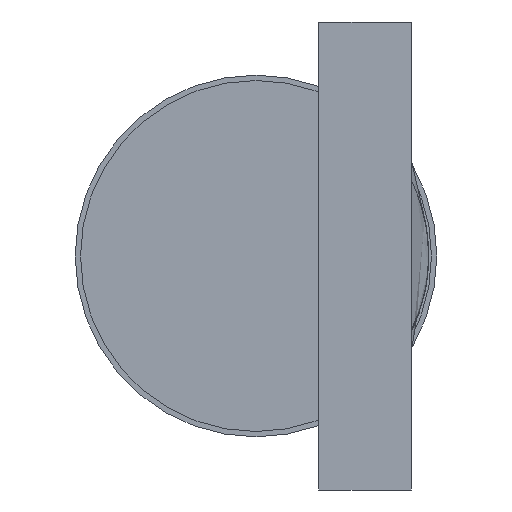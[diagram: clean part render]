
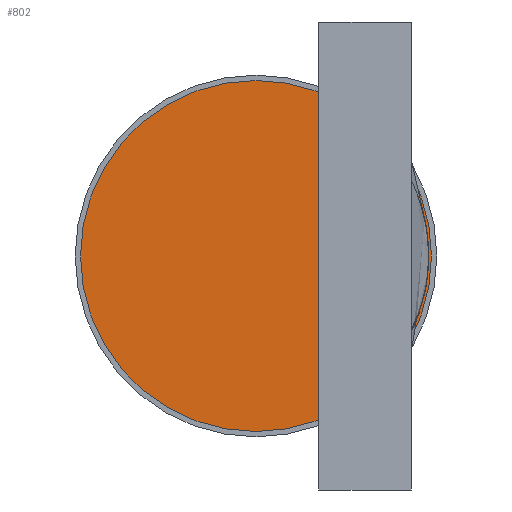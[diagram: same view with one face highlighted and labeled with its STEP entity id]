
A CAD part, left-side view. The second image highlights one B-rep face of the part: STEP entity #802.
In plain terms, the highlighted planar face has unit normal (-1, 0, 0).
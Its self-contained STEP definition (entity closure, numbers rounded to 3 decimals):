
#56=LINE('',#2130,#121);
#121=VECTOR('',#1009,10.);
#187=FACE_BOUND('',#269,.T.);
#217=FACE_OUTER_BOUND('',#268,.T.);
#268=EDGE_LOOP('',(#624));
#269=EDGE_LOOP('',(#625,#626));
#299=CIRCLE('',#857,4.191);
#300=CIRCLE('',#859,4.128);
#337=VERTEX_POINT('',#1973);
#338=VERTEX_POINT('',#1977);
#339=VERTEX_POINT('',#1978);
#418=EDGE_CURVE('',#337,#337,#299,.T.);
#419=EDGE_CURVE('',#338,#339,#300,.T.);
#458=EDGE_CURVE('',#339,#338,#56,.T.);
#624=ORIENTED_EDGE('',*,*,#418,.T.);
#625=ORIENTED_EDGE('',*,*,#458,.F.);
#626=ORIENTED_EDGE('',*,*,#419,.F.);
#727=PLANE('',#878);
#802=ADVANCED_FACE('',(#217,#187),#727,.T.);
#857=AXIS2_PLACEMENT_3D('',#1975,#938,#939);
#859=AXIS2_PLACEMENT_3D('',#1979,#942,#943);
#878=AXIS2_PLACEMENT_3D('',#2131,#1010,#1011);
#938=DIRECTION('center_axis',(-1.,0.,0.));
#939=DIRECTION('ref_axis',(0.,0.,1.));
#942=DIRECTION('center_axis',(-1.,0.,0.));
#943=DIRECTION('ref_axis',(0.,-1.,0.));
#1009=DIRECTION('',(0.,0.,-1.));
#1010=DIRECTION('center_axis',(-1.,0.,0.));
#1011=DIRECTION('ref_axis',(0.,0.,1.));
#1973=CARTESIAN_POINT('',(-122.276,0.,-4.191));
#1975=CARTESIAN_POINT('Origin',(-122.276,0.,0.));
#1977=CARTESIAN_POINT('',(-122.276,-1.5,-3.845));
#1978=CARTESIAN_POINT('',(-122.276,-1.5,3.845));
#1979=CARTESIAN_POINT('Origin',(-122.276,0.,0.));
#2130=CARTESIAN_POINT('',(-122.276,-1.5,1.923));
#2131=CARTESIAN_POINT('Origin',(-122.276,0.,0.));
